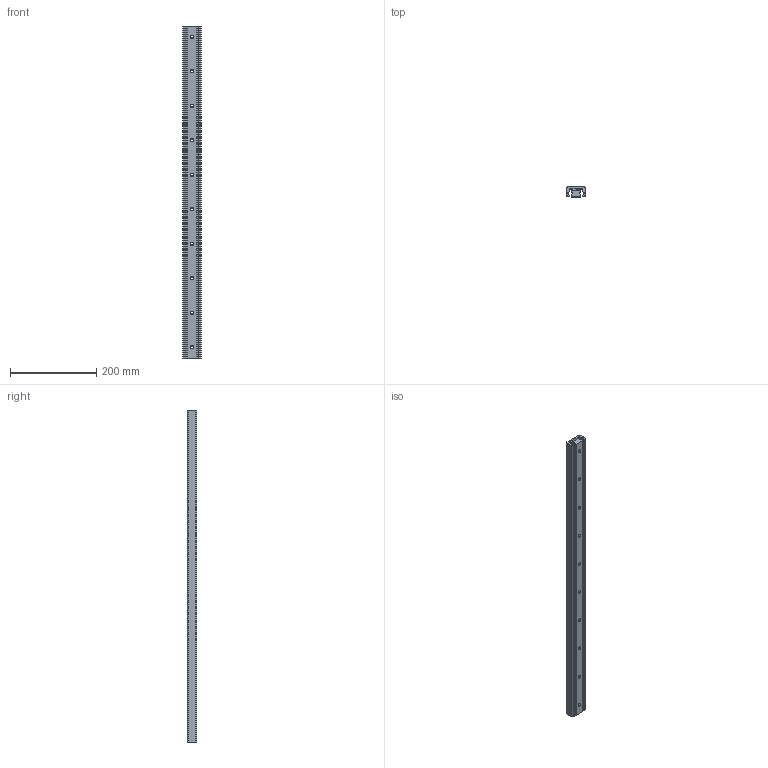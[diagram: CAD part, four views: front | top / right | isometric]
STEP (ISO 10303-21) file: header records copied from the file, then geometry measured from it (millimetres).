
FILE_DESCRIPTION(('STEP AP214'),'1');
FILE_NAME('rail_asn43-770_00.stp','2017-06-06T10:16:07',('TraceParts'),('TraceParts S.A.'),'Spatial InterOp 3D',' ',' ');
FILE_SCHEMA(('automotive_design'));
Length unit declared in the file: millimetre
Products named in the file (2): rail_asn43-770_00_1; rail_asn43-770_00_2
Bounding box: 43 x 22.01 x 770 mm (x, y, z)
Volume: 468742.5 mm3; surface area: 182028.4 mm2
Topology: 2 solids, 2 shells, 177 faces, 444 edges, 276 vertices
Faces by surface type: cylinder 71, cone 60, plane 46
Entity records: 5410 total; most frequent: DIRECTION 1004, CARTESIAN_POINT 899, ORIENTED_EDGE 888, EDGE_CURVE 444, AXIS2_PLACEMENT_3D 381, VERTEX_POINT 276, LINE 242, VECTOR 242
